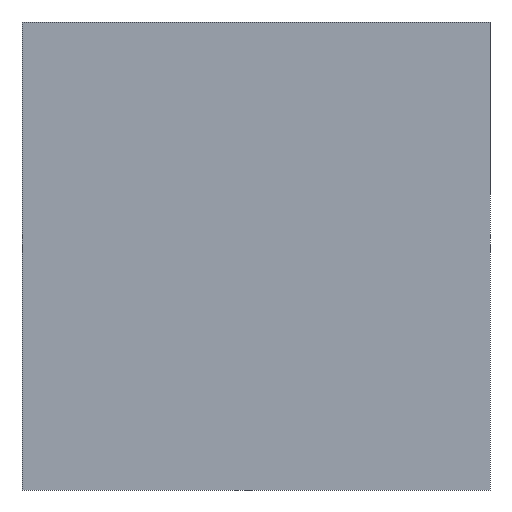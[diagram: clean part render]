
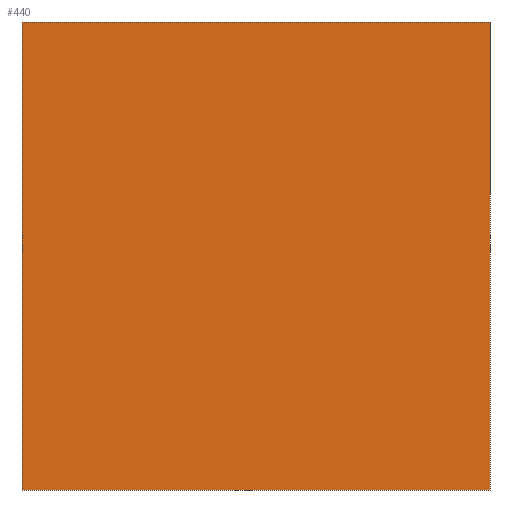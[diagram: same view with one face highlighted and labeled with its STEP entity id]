
A CAD part, front view. The second image highlights one B-rep face of the part: STEP entity #440.
In plain terms, the highlighted planar face has unit normal (0, -1, 0).
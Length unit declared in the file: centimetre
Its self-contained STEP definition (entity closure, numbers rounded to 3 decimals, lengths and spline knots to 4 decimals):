
#6 = VECTOR ( 'NONE', #175, 100. ) ;
#27 = EDGE_CURVE ( 'NONE', #377, #343, #577, .T. ) ;
#28 = DIRECTION ( 'NONE',  ( 0., 0., -1. ) ) ;
#85 = CARTESIAN_POINT ( 'NONE',  ( 0., 0., 0. ) ) ;
#117 = EDGE_CURVE ( 'NONE', #526, #377, #475, .T. ) ;
#173 = ORIENTED_EDGE ( 'NONE', *, *, #27, .F. ) ;
#174 = CARTESIAN_POINT ( 'NONE',  ( 0., 0., 1000. ) ) ;
#175 = DIRECTION ( 'NONE',  ( 1., 0., 0. ) ) ;
#206 = EDGE_CURVE ( 'NONE', #291, #343, #316, .T. ) ;
#220 = DIRECTION ( 'NONE',  ( 0., 1., 0. ) ) ;
#224 = FACE_OUTER_BOUND ( 'NONE', #478, .T. ) ;
#227 = VECTOR ( 'NONE', #406, 100. ) ;
#228 = CARTESIAN_POINT ( 'NONE',  ( 0., 0., 1000. ) ) ;
#256 = ORIENTED_EDGE ( 'NONE', *, *, #338, .T. ) ;
#269 = PLANE ( 'NONE',  #574 ) ;
#291 = VERTEX_POINT ( 'NONE', #85 ) ;
#295 = VECTOR ( 'NONE', #351, 100. ) ;
#316 = LINE ( 'NONE', #391, #6 ) ;
#318 = ORIENTED_EDGE ( 'NONE', *, *, #206, .T. ) ;
#322 = CARTESIAN_POINT ( 'NONE',  ( 1000., 0., 0. ) ) ;
#326 = LINE ( 'NONE', #362, #227 ) ;
#338 = EDGE_CURVE ( 'NONE', #526, #291, #326, .T. ) ;
#343 = VERTEX_POINT ( 'NONE', #322 ) ;
#351 = DIRECTION ( 'NONE',  ( 1., 0., 0. ) ) ;
#362 = CARTESIAN_POINT ( 'NONE',  ( 0., 0., 1000. ) ) ;
#377 = VERTEX_POINT ( 'NONE', #387 ) ;
#387 = CARTESIAN_POINT ( 'NONE',  ( 1000., 0., 1000. ) ) ;
#391 = CARTESIAN_POINT ( 'NONE',  ( 0., 0., 0. ) ) ;
#393 = CARTESIAN_POINT ( 'NONE',  ( 0., 0., 1000. ) ) ;
#395 = DIRECTION ( 'NONE',  ( 0., 0., 1. ) ) ;
#406 = DIRECTION ( 'NONE',  ( 0., 0., -1. ) ) ;
#417 = VECTOR ( 'NONE', #28, 100. ) ;
#435 = CARTESIAN_POINT ( 'NONE',  ( 1000., 0., 1000. ) ) ;
#440 = ADVANCED_FACE ( 'NONE', ( #224 ), #269, .F. ) ;
#475 = LINE ( 'NONE', #393, #295 ) ;
#478 = EDGE_LOOP ( 'NONE', ( #318, #173, #511, #256 ) ) ;
#511 = ORIENTED_EDGE ( 'NONE', *, *, #117, .F. ) ;
#526 = VERTEX_POINT ( 'NONE', #228 ) ;
#574 = AXIS2_PLACEMENT_3D ( 'NONE', #174, #220, #395 ) ;
#577 = LINE ( 'NONE', #435, #417 ) ;
